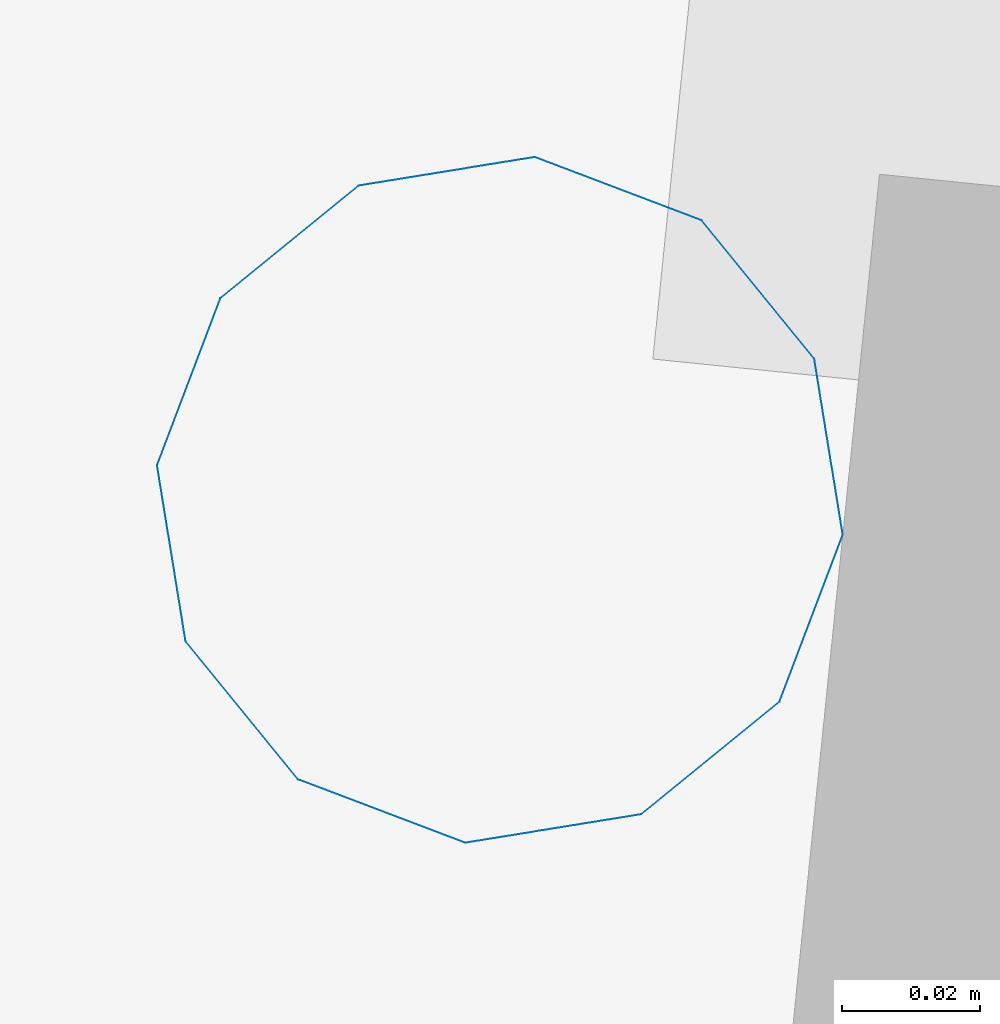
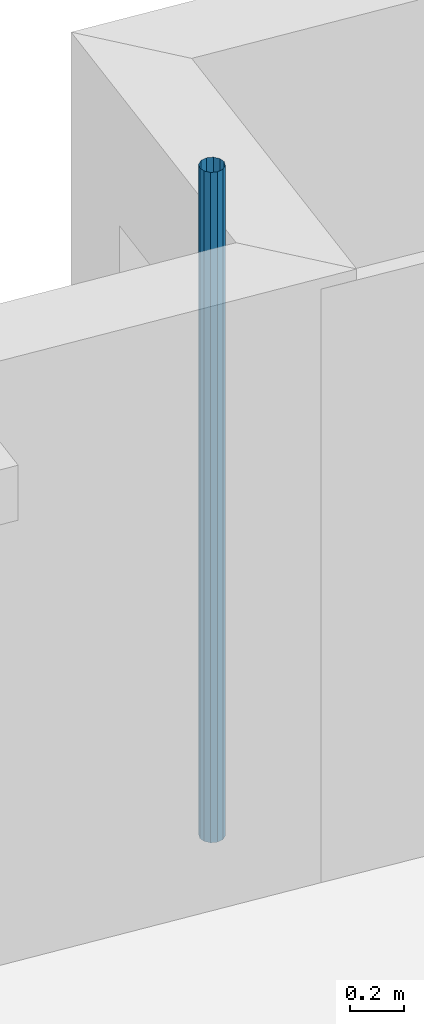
# One storey, part 83 of 164: 1 discrete accessory.
"""IFC2X3 building model written with IfcOpenShell, lengths in millimetres."""

from ifc_helpers import new_model, entity, si_unit, converted_unit, derived_unit, money_unit, direction, frame, origin_with_axes, place, context, subcontext, project, spatial, open_shell, surface_model, source, transform, mapped, type_object, element, save


model = new_model("IFC2X3")

# Units and contexts
model_context = context("Model", 3, precision=0.01, world=origin_with_axes(), true_north=direction((0.0, 1.0)))
body_context = subcontext(model_context, "Body", "Model", "MODEL_VIEW")
ifc_project = project(units=[si_unit("LENGTHUNIT", "METRE", prefix="MILLI"), si_unit("AREAUNIT", "SQUARE_METRE"), si_unit("VOLUMEUNIT", "CUBIC_METRE"), converted_unit("PLANEANGLEUNIT", "DEGREE", entity("IfcPlaneAngleMeasure", 0.0174532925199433), si_unit("PLANEANGLEUNIT", "RADIAN"), dimensions=[0, 0, 0, 0, 0, 0, 0]), money_unit("USD"), converted_unit("TIMEUNIT", "Year", entity("IfcTimeMeasure", 31557600.0), si_unit("TIMEUNIT", "SECOND"), dimensions=[0, 0, 1, 0, 0, 0, 0]), si_unit("MASSUNIT", "GRAM", prefix="KILO"), si_unit("THERMODYNAMICTEMPERATUREUNIT", "DEGREE_CELSIUS"), si_unit("LUMINOUSINTENSITYUNIT", "LUMEN"), si_unit("ENERGYUNIT", "JOULE", prefix="MEGA"), derived_unit("THERMALCONDUCTANCEUNIT", [(si_unit("POWERUNIT", "WATT"), 1), (si_unit("LENGTHUNIT", "METRE"), -1), (si_unit("THERMODYNAMICTEMPERATUREUNIT", "KELVIN"), -1)]), derived_unit("SPECIFICHEATCAPACITYUNIT", [(si_unit("ENERGYUNIT", "JOULE"), 1), (si_unit("MASSUNIT", "GRAM", prefix="KILO"), -1), (si_unit("THERMODYNAMICTEMPERATUREUNIT", "KELVIN"), -1)]), derived_unit("MASSDENSITYUNIT", [(si_unit("MASSUNIT", "GRAM", prefix="KILO"), 1), (si_unit("VOLUMEUNIT", "CUBIC_METRE"), -1)])], contexts=[model_context])

# Site, building, storey
site_placement = place(None, origin_with_axes())
site = spatial("IfcSite", under=ifc_project, at=site_placement, Name="Site", CompositionType="ELEMENT")
building_placement = place(site_placement, origin_with_axes())
building = spatial("IfcBuilding", under=site, at=building_placement, Name="Bâtiment", CompositionType="ELEMENT")
storey_placement = place(building_placement, frame((0.0, 0.0, 5750.0), z_axis=(0.0, 0.0, 1.0), x_axis=(1.0, 0.0, 0.0)))
storey = spatial("IfcBuildingStorey", under=building, at=storey_placement, Name="Etage1", CompositionType="ELEMENT", Elevation=5750.0)

# Discrete accessory
discrete_accessory_type = type_object("IfcDiscreteAccessoryType", Name="Tuyau descente 27")
shared_shape = source(origin_with_axes(), body_context, "Body", "SurfaceModel", [
    surface_model("IfcShellBasedSurfaceModel", [(-50.0, 0.0, 3050.0), (-50.0, 0.0, 0.0), (-43.30127018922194, -25.0, 0.0), (-43.30127018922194, -25.0, 3050.0), (-43.30127018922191, 25.00000000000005, 3050.0), (-43.30127018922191, 25.00000000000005, 0.0), (-25.00000000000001, -43.30127018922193, 0.0), (-25.00000000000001, -43.30127018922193, 3050.0), (-24.99999999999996, 43.30127018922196, 3050.0), (-24.99999999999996, 43.30127018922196, 0.0), (0.0, -50.0, 0.0), (0.0, -50.0, 3050.0), (0.0, 50.0, 3050.0), (0.0, 50.0, 0.0), (24.99999999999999, -43.30127018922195, 0.0), (24.99999999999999, -43.30127018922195, 3050.0), (25.00000000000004, 43.30127018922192, 3050.0), (25.00000000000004, 43.30127018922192, 0.0), (43.30127018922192, -25.00000000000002, 0.0), (43.30127018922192, -25.00000000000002, 3050.0), (43.30127018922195, 24.99999999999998, 3050.0), (43.30127018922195, 24.99999999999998, 0.0), (50.0, 0.0, 0.0), (50.0, 0.0, 3050.0)], [open_shell([[[0, 1, 2, 3]], [[4, 5, 1, 0]], [[3, 2, 6, 7]], [[8, 9, 5, 4]], [[7, 6, 10, 11]], [[12, 13, 9, 8]], [[11, 10, 14, 15]], [[16, 17, 13, 12]], [[15, 14, 18, 19]], [[20, 21, 17, 16]], [[19, 18, 22, 23]], [[23, 22, 21, 20]]])]),
])
discrete_accessory_placement = place(storey_placement, frame((2230185.036657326, -606619.6430628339, 0.0), z_axis=(0.0, 0.0, 1.0), x_axis=(-0.9948759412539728, 0.1011032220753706, 0.0)))
element("IfcDiscreteAccessory", 1, at=discrete_accessory_placement, inside=storey, type_object=discrete_accessory_type, Name="Obj.-318", context=body_context, shape_type="MappedRepresentation", body=[
    mapped(shared_shape, transform((0.0, 0.0, 0.0))),
])

save(model, "model.ifc")
